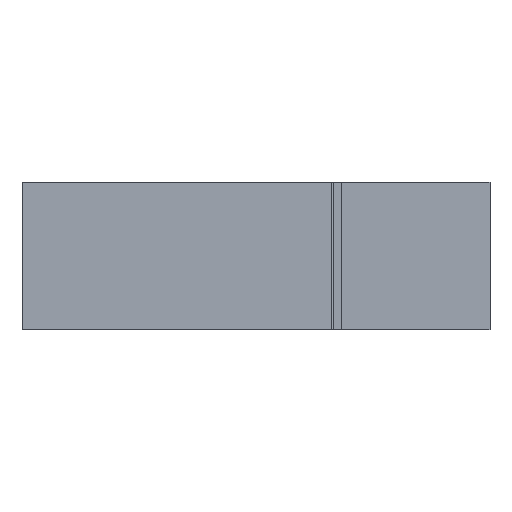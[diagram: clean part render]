
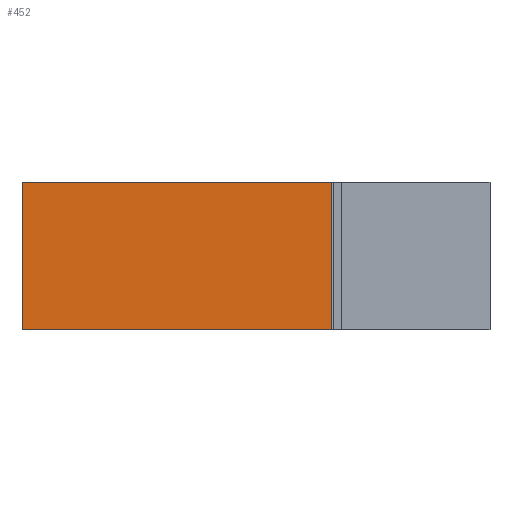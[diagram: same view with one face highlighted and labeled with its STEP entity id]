
A CAD part, left-side view. The second image highlights one B-rep face of the part: STEP entity #452.
In plain terms, the highlighted planar face has unit normal (-1, 0, 0).
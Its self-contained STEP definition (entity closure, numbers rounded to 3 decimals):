
#63 = LINE ( 'NONE', #1398, #1850 ) ;
#148 = DIRECTION ( 'NONE',  ( 0., 0., -1. ) ) ;
#180 = DIRECTION ( 'NONE',  ( 0., 1., 0. ) ) ;
#218 = CARTESIAN_POINT ( 'NONE',  ( -8., 9.55, 6. ) ) ;
#270 = DIRECTION ( 'NONE',  ( 0., -1., 0. ) ) ;
#306 = AXIS2_PLACEMENT_3D ( 'NONE', #1825, #1836, #180 ) ;
#319 = LINE ( 'NONE', #497, #1253 ) ;
#418 = VECTOR ( 'NONE', #437, 1000. ) ;
#437 = DIRECTION ( 'NONE',  ( 0., 0., -1. ) ) ;
#452 = ADVANCED_FACE ( 'NONE', ( #2302 ), #1147, .F. ) ;
#497 = CARTESIAN_POINT ( 'NONE',  ( -8., 9.55, 0. ) ) ;
#572 = EDGE_CURVE ( 'NONE', #790, #1181, #63, .T. ) ;
#604 = ORIENTED_EDGE ( 'NONE', *, *, #608, .T. ) ;
#608 = EDGE_CURVE ( 'NONE', #924, #2307, #1229, .T. ) ;
#770 = ORIENTED_EDGE ( 'NONE', *, *, #1283, .T. ) ;
#790 = VERTEX_POINT ( 'NONE', #1289 ) ;
#877 = VECTOR ( 'NONE', #270, 1000. ) ;
#924 = VERTEX_POINT ( 'NONE', #218 ) ;
#993 = ORIENTED_EDGE ( 'NONE', *, *, #572, .F. ) ;
#1120 = EDGE_CURVE ( 'NONE', #924, #790, #2236, .T. ) ;
#1147 = PLANE ( 'NONE',  #306 ) ;
#1181 = VERTEX_POINT ( 'NONE', #2335 ) ;
#1228 = CARTESIAN_POINT ( 'NONE',  ( -8., 9.55, 6. ) ) ;
#1229 = LINE ( 'NONE', #1228, #418 ) ;
#1253 = VECTOR ( 'NONE', #1550, 1000. ) ;
#1283 = EDGE_CURVE ( 'NONE', #2307, #1181, #319, .T. ) ;
#1289 = CARTESIAN_POINT ( 'NONE',  ( -8., -3.074, 6. ) ) ;
#1398 = CARTESIAN_POINT ( 'NONE',  ( -8., -3.074, 6. ) ) ;
#1517 = CARTESIAN_POINT ( 'NONE',  ( -8., 9.55, 6. ) ) ;
#1550 = DIRECTION ( 'NONE',  ( 0., -1., 0. ) ) ;
#1825 = CARTESIAN_POINT ( 'NONE',  ( -8., 9.55, 6. ) ) ;
#1836 = DIRECTION ( 'NONE',  ( 1., 0., 0. ) ) ;
#1850 = VECTOR ( 'NONE', #148, 1000. ) ;
#2045 = EDGE_LOOP ( 'NONE', ( #770, #993, #2117, #604 ) ) ;
#2117 = ORIENTED_EDGE ( 'NONE', *, *, #1120, .F. ) ;
#2236 = LINE ( 'NONE', #1517, #877 ) ;
#2302 = FACE_OUTER_BOUND ( 'NONE', #2045, .T. ) ;
#2307 = VERTEX_POINT ( 'NONE', #2561 ) ;
#2335 = CARTESIAN_POINT ( 'NONE',  ( -8., -3.074, 0. ) ) ;
#2561 = CARTESIAN_POINT ( 'NONE',  ( -8., 9.55, 0. ) ) ;
